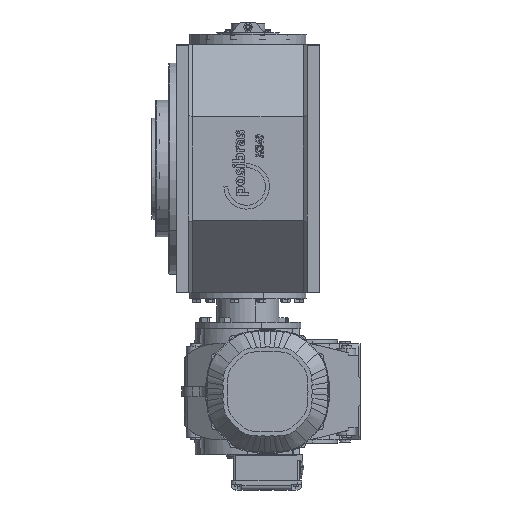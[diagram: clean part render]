
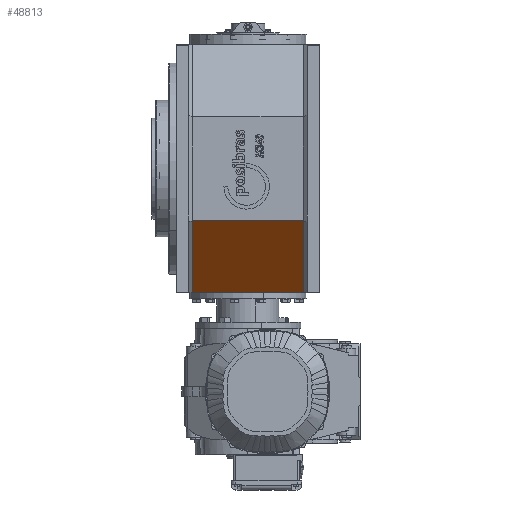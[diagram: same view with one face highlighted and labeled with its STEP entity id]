
A CAD part, left-side view. The second image highlights one B-rep face of the part: STEP entity #48813.
In plain terms, the highlighted planar face has unit normal (-0.707, 0, -0.707).
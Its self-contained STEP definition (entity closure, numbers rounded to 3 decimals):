
#1485 = PLANE ( 'NONE',  #37192 ) ;
#1686 = LINE ( 'NONE', #37607, #91605 ) ;
#5518 = ORIENTED_EDGE ( 'NONE', *, *, #45834, .T. ) ;
#6378 = CARTESIAN_POINT ( 'NONE',  ( -83.259, 204., -199. ) ) ;
#7405 = CARTESIAN_POINT ( 'NONE',  ( -199., 210., -83.259 ) ) ;
#7881 = LINE ( 'NONE', #7405, #47659 ) ;
#23582 = FACE_OUTER_BOUND ( 'NONE', #49782, .T. ) ;
#25096 = CARTESIAN_POINT ( 'NONE',  ( -83.259, 204., -199. ) ) ;
#28573 = CARTESIAN_POINT ( 'NONE',  ( -199., 26., -83.259 ) ) ;
#37192 = AXIS2_PLACEMENT_3D ( 'NONE', #68618, #92373, #92880 ) ;
#37607 = CARTESIAN_POINT ( 'NONE',  ( -83.259, 210., -199. ) ) ;
#42329 = CARTESIAN_POINT ( 'NONE',  ( -83.259, 26., -199. ) ) ;
#43499 = VECTOR ( 'NONE', #58784, 1000. ) ;
#43859 = VERTEX_POINT ( 'NONE', #42329 ) ;
#45572 = ORIENTED_EDGE ( 'NONE', *, *, #46417, .F. ) ;
#45592 = EDGE_CURVE ( 'NONE', #43859, #95373, #96419, .T. ) ;
#45607 = CARTESIAN_POINT ( 'NONE',  ( -199., 26., -83.259 ) ) ;
#45834 = EDGE_CURVE ( 'NONE', #59878, #87545, #64160, .T. ) ;
#46417 = EDGE_CURVE ( 'NONE', #59878, #95373, #7881, .T. ) ;
#47659 = VECTOR ( 'NONE', #90959, 1000. ) ;
#48813 = ADVANCED_FACE ( 'NONE', ( #23582 ), #1485, .F. ) ;
#49782 = EDGE_LOOP ( 'NONE', ( #45572, #5518, #53411, #52162 ) ) ;
#52162 = ORIENTED_EDGE ( 'NONE', *, *, #45592, .T. ) ;
#53411 = ORIENTED_EDGE ( 'NONE', *, *, #63668, .T. ) ;
#57395 = CARTESIAN_POINT ( 'NONE',  ( -199., 204., -83.259 ) ) ;
#58784 = DIRECTION ( 'NONE',  ( -0.707, 0., 0.707 ) ) ;
#59878 = VERTEX_POINT ( 'NONE', #57395 ) ;
#63661 = DIRECTION ( 'NONE',  ( 0.707, 0., -0.707 ) ) ;
#63668 = EDGE_CURVE ( 'NONE', #87545, #43859, #1686, .T. ) ;
#64160 = LINE ( 'NONE', #25096, #78318 ) ;
#68618 = CARTESIAN_POINT ( 'NONE',  ( -199., 210., -83.259 ) ) ;
#78318 = VECTOR ( 'NONE', #63661, 1000. ) ;
#87545 = VERTEX_POINT ( 'NONE', #6378 ) ;
#90959 = DIRECTION ( 'NONE',  ( 0., -1., 0. ) ) ;
#91588 = DIRECTION ( 'NONE',  ( 0., -1., 0. ) ) ;
#91605 = VECTOR ( 'NONE', #91588, 1000. ) ;
#92373 = DIRECTION ( 'NONE',  ( 0.707, 0., 0.707 ) ) ;
#92880 = DIRECTION ( 'NONE',  ( 0.707, 0., -0.707 ) ) ;
#95373 = VERTEX_POINT ( 'NONE', #45607 ) ;
#96419 = LINE ( 'NONE', #28573, #43499 ) ;
